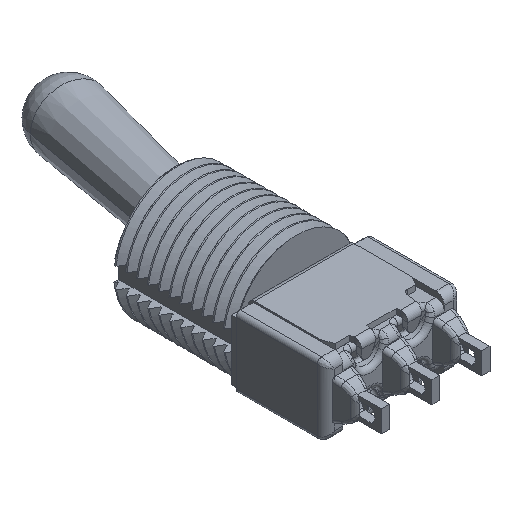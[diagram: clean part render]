
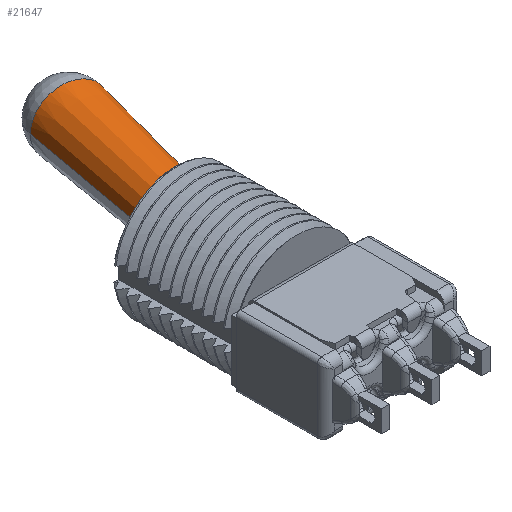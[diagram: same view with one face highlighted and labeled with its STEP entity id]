
A CAD part, isometric view. The second image highlights one B-rep face of the part: STEP entity #21647.
In plain terms, the highlighted conical face has half-angle 2.236 degrees and reference radius 2.813 mm.
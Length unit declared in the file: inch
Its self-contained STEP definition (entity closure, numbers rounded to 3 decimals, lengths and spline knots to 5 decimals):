
#7791=DIRECTION('',(0.178,0.984,0.));
#7792=VECTOR('',#7791,0.55108);
#7793=CARTESIAN_POINT('',(-0.02794,0.53601,
0.));
#7794=LINE('',#7793,#7792);
#7795=DIRECTION('',(0.254,0.967,0.));
#7796=VECTOR('',#7795,0.55108);
#7797=CARTESIAN_POINT('',(0.16732,0.49272,
0.));
#7798=LINE('',#7797,#7796);
#7799=CARTESIAN_POINT('',(0.06969,0.51437,0.));
#7800=DIRECTION('',(0.216,0.976,0.));
#7801=DIRECTION('',(-0.976,0.216,0.));
#7802=AXIS2_PLACEMENT_3D('',#7799,#7800,#7801);
#7814=CARTESIAN_POINT('',(0.18888,1.05198,0.));
#7815=DIRECTION('',(0.216,0.976,0.));
#7816=DIRECTION('',(-0.976,0.216,0.));
#7817=AXIS2_PLACEMENT_3D('',#7814,#7815,#7816);
#14074=CARTESIAN_POINT('',(-0.02794,0.53601,
0.));
#14075=CARTESIAN_POINT('',(0.07026,1.07828,
0.));
#14076=VERTEX_POINT('',#14074);
#14077=VERTEX_POINT('',#14075);
#14086=CARTESIAN_POINT('',(0.16732,0.49272,
0.));
#14087=CARTESIAN_POINT('',(0.3075,1.02568,
0.));
#14088=VERTEX_POINT('',#14086);
#14089=VERTEX_POINT('',#14087);
#21635=CARTESIAN_POINT('',(0.12929,0.78317,0.));
#21636=DIRECTION('',(0.216,0.976,0.));
#21637=DIRECTION('',(-0.976,0.216,0.));
#21638=AXIS2_PLACEMENT_3D('',#21635,#21636,#21637);
#21639=CONICAL_SURFACE('',#21638,0.11075,2.236);
#21640=ORIENTED_EDGE('',*,*,#21625,.T.);
#21642=ORIENTED_EDGE('',*,*,#21641,.T.);
#21643=ORIENTED_EDGE('',*,*,#21628,.F.);
#21644=ORIENTED_EDGE('',*,*,#21599,.F.);
#21645=EDGE_LOOP('',(#21640,#21642,#21643,#21644));
#21646=FACE_OUTER_BOUND('',#21645,.F.);
#21647=ADVANCED_FACE('',(#21646),#21639,.T.);
#7803=CIRCLE('',#7802,0.1);
#7818=CIRCLE('',#7817,0.1215);
#21599=EDGE_CURVE('',#14076,#14088,#7803,.T.);
#21625=EDGE_CURVE('',#14076,#14077,#7794,.T.);
#21628=EDGE_CURVE('',#14088,#14089,#7798,.T.);
#21641=EDGE_CURVE('',#14077,#14089,#7818,.T.);
